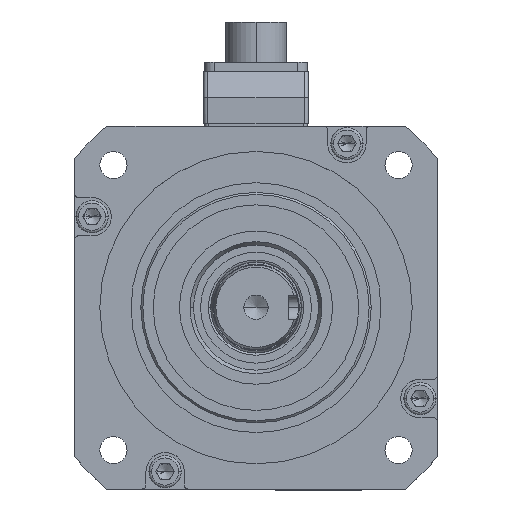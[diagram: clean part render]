
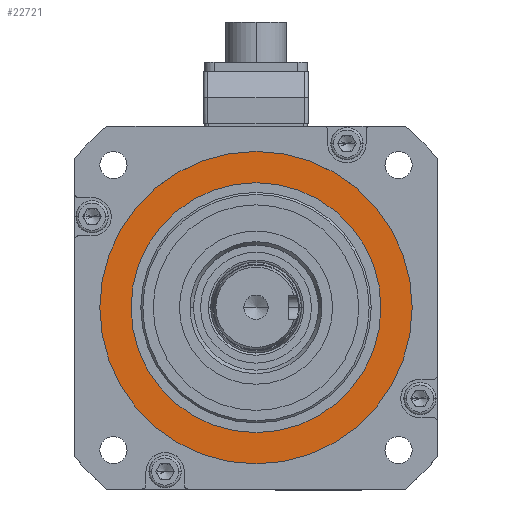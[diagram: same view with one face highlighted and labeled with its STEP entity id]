
A CAD part, top view. The second image highlights one B-rep face of the part: STEP entity #22721.
In plain terms, the highlighted planar face has unit normal (0, 0, 1).
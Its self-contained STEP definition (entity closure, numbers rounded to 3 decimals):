
#7297 = VERTEX_POINT ( 'NONE', #52110 ) ;
#7300 = VERTEX_POINT ( 'NONE', #52113 ) ;
#7353 = VERTEX_POINT ( 'NONE', #52166 ) ;
#7354 = VERTEX_POINT ( 'NONE', #52167 ) ;
#16075 = CARTESIAN_POINT ( 'NONE',  ( 0., 0., 20. ) ) ;
#16076 = DIRECTION ( 'NONE',  ( 0., 0., 1. ) ) ;
#16077 = DIRECTION ( 'NONE',  ( 1., 0., 0. ) ) ;
#16085 = CARTESIAN_POINT ( 'NONE',  ( 0., 0., 20. ) ) ;
#16086 = DIRECTION ( 'NONE',  ( 0., 0., 1. ) ) ;
#16087 = DIRECTION ( 'NONE',  ( 1., 0., 0. ) ) ;
#16480 = CIRCLE ( 'NONE', #17576, 62. ) ;
#16488 = CIRCLE ( 'NONE', #17578, 77.5 ) ;
#17332 = CIRCLE ( 'NONE', #17874, 77.5 ) ;
#17333 = CIRCLE ( 'NONE', #17875, 62. ) ;
#17576 = AXIS2_PLACEMENT_3D ( 'NONE', #16075, #16076, #16077 ) ;
#17578 = AXIS2_PLACEMENT_3D ( 'NONE', #16085, #16086, #16087 ) ;
#17874 = AXIS2_PLACEMENT_3D ( 'NONE', #19733, #19734, #19735 ) ;
#17875 = AXIS2_PLACEMENT_3D ( 'NONE', #19736, #19737, #19738 ) ;
#19733 = CARTESIAN_POINT ( 'NONE',  ( 0., 0., 20. ) ) ;
#19734 = DIRECTION ( 'NONE',  ( 0., 0., 1. ) ) ;
#19735 = DIRECTION ( 'NONE',  ( 1., 0., 0. ) ) ;
#19736 = CARTESIAN_POINT ( 'NONE',  ( 0., 0., 20. ) ) ;
#19737 = DIRECTION ( 'NONE',  ( 0., 0., 1. ) ) ;
#19738 = DIRECTION ( 'NONE',  ( 1., 0., 0. ) ) ;
#22721 = ADVANCED_FACE ( 'NONE', ( #54249, #54252 ), #56881, .T. ) ;
#29044 = ORIENTED_EDGE ( 'NONE', *, *, #46817, .F. ) ;
#29046 = ORIENTED_EDGE ( 'NONE', *, *, #47391, .F. ) ;
#29048 = ORIENTED_EDGE ( 'NONE', *, *, #47390, .T. ) ;
#29050 = ORIENTED_EDGE ( 'NONE', *, *, #46821, .T. ) ;
#46817 = EDGE_CURVE ( 'NONE', #7354, #7297, #16480, .T. ) ;
#46821 = EDGE_CURVE ( 'NONE', #7353, #7300, #16488, .T. ) ;
#47390 = EDGE_CURVE ( 'NONE', #7300, #7353, #17332, .T. ) ;
#47391 = EDGE_CURVE ( 'NONE', #7297, #7354, #17333, .T. ) ;
#51055 = EDGE_LOOP ( 'NONE', ( #29048, #29050 ) ) ;
#51109 = EDGE_LOOP ( 'NONE', ( #29044, #29046 ) ) ;
#52110 = CARTESIAN_POINT ( 'NONE',  ( -62., 0., 20. ) ) ;
#52113 = CARTESIAN_POINT ( 'NONE',  ( 77.5, 0., 20. ) ) ;
#52166 = CARTESIAN_POINT ( 'NONE',  ( -77.5, 0., 20. ) ) ;
#52167 = CARTESIAN_POINT ( 'NONE',  ( 62., 0., 20. ) ) ;
#54249 = FACE_BOUND ( 'NONE', #51109, .T. ) ;
#54252 = FACE_OUTER_BOUND ( 'NONE', #51055, .T. ) ;
#55571 = AXIS2_PLACEMENT_3D ( 'NONE', #56873, #56883, #56884 ) ;
#56873 = CARTESIAN_POINT ( 'NONE',  ( 0., 0., 20. ) ) ;
#56881 = PLANE ( 'NONE',  #55571 ) ;
#56883 = DIRECTION ( 'NONE',  ( 0., 0., 1. ) ) ;
#56884 = DIRECTION ( 'NONE',  ( 1., 0., 0. ) ) ;
